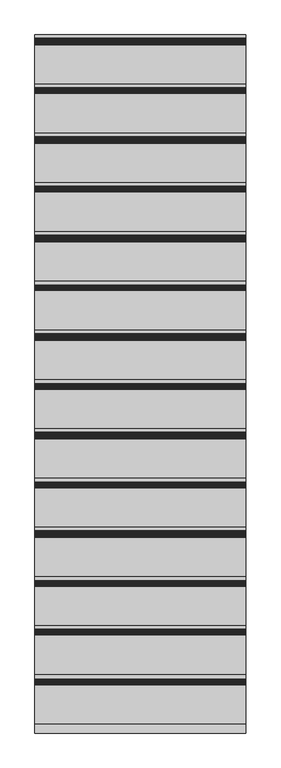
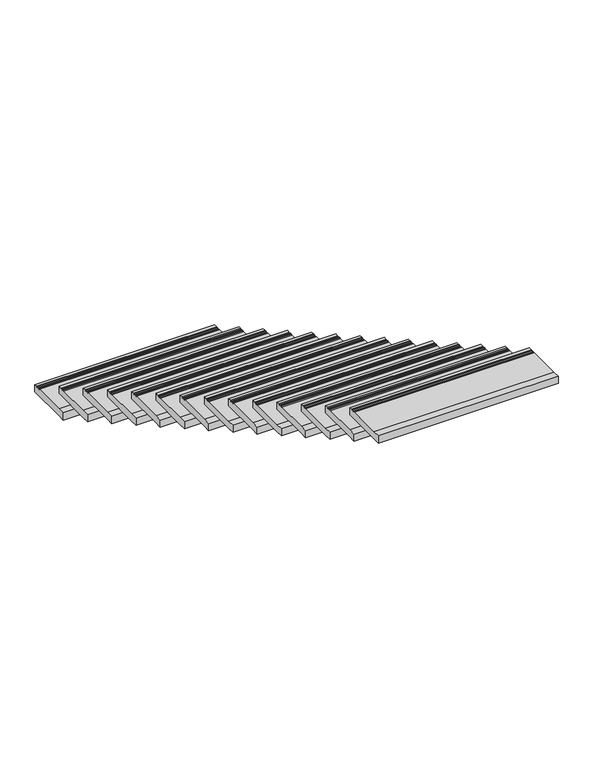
"""IFC4 building model written with IfcOpenShell, lengths in millimetres: stair flight geometry, Giron 30 mm nez de marche 20 mm."""

from ifc_helpers import new_model, si_unit, frame, origin, place, context, project, spatial, polyline, outline, extrude, source, transform, mapped, element, save


def stair_flight_51730395(model_context):
    return source(origin(), model_context, "Body", "SweptSolid", [
        extrude(outline(polyline([(5206.7132332, 3117.3333333), (5210.2487671, 3113.7977994), (5213.784301, 3117.3333333), (5217.319835, 3113.7977994), (5220.8553689, 3117.3333333), (5224.3909028, 3113.7977994), (5227.9264367, 3117.3333333), (5231.4619706, 3113.7977994), (5234.9975045, 3117.3333333), (5238.5330384, 3113.7977994), (5242.0685723, 3117.3333333), (5262.0685723, 3117.3333333), (5262.0685723, 3067.3333333), (4982.0685723, 3067.3333333), (4932.0685723, 3067.3333333), (4932.0685723, 3117.3333333), (4982.0685723, 3117.3333333), (5206.7132332, 3117.3333333)])), frame((9143.2466393, 0.0, 0.0), z_axis=(1.0, 0.0, 0.0), x_axis=(0.0, 1.0, 0.0)), (0.0, 0.0, 1.0), 1200.0),
        extrude(outline(polyline([(4926.7132332, 3274.6666667), (4930.2487671, 3271.1311328), (4933.784301, 3274.6666667), (4937.319835, 3271.1311328), (4940.8553689, 3274.6666667), (4944.3909028, 3271.1311328), (4947.9264367, 3274.6666667), (4951.4619706, 3271.1311328), (4954.9975045, 3274.6666667), (4958.5330384, 3271.1311328), (4962.0685723, 3274.6666667), (4982.0685723, 3274.6666667), (4982.0685723, 3224.6666667), (4702.0685723, 3224.6666667), (4652.0685723, 3224.6666667), (4652.0685723, 3274.6666667), (4702.0685723, 3274.6666667), (4926.7132332, 3274.6666667)])), frame((9143.2466393, 0.0, 0.0), z_axis=(1.0, 0.0, 0.0), x_axis=(0.0, 1.0, 0.0)), (0.0, 0.0, 1.0), 1200.0),
        extrude(outline(polyline([(4646.7132332, 3432.0), (4650.2487671, 3428.4644661), (4653.784301, 3432.0), (4657.319835, 3428.4644661), (4660.8553689, 3432.0), (4664.3909028, 3428.4644661), (4667.9264367, 3432.0), (4671.4619706, 3428.4644661), (4674.9975045, 3432.0), (4678.5330384, 3428.4644661), (4682.0685723, 3432.0), (4702.0685723, 3432.0), (4702.0685723, 3382.0), (4422.0685723, 3382.0), (4372.0685723, 3382.0), (4372.0685723, 3432.0), (4422.0685723, 3432.0), (4646.7132332, 3432.0)])), frame((9143.2466393, 0.0, 0.0), z_axis=(1.0, 0.0, 0.0), x_axis=(0.0, 1.0, 0.0)), (0.0, 0.0, 1.0), 1200.0),
        extrude(outline(polyline([(4366.7132332, 3589.3333333), (4370.2487671, 3585.7977994), (4373.784301, 3589.3333333), (4377.319835, 3585.7977994), (4380.8553689, 3589.3333333), (4384.3909028, 3585.7977994), (4387.9264367, 3589.3333333), (4391.4619706, 3585.7977994), (4394.9975045, 3589.3333333), (4398.5330384, 3585.7977994), (4402.0685723, 3589.3333333), (4422.0685723, 3589.3333333), (4422.0685723, 3539.3333333), (4142.0685723, 3539.3333333), (4092.0685723, 3539.3333333), (4092.0685723, 3589.3333333), (4142.0685723, 3589.3333333), (4366.7132332, 3589.3333333)])), frame((9143.2466393, 0.0, 0.0), z_axis=(1.0, 0.0, 0.0), x_axis=(0.0, 1.0, 0.0)), (0.0, 0.0, 1.0), 1200.0),
        extrude(outline(polyline([(4086.7132332, 3746.6666667), (4090.2487671, 3743.1311328), (4093.784301, 3746.6666667), (4097.319835, 3743.1311328), (4100.8553689, 3746.6666667), (4104.3909028, 3743.1311328), (4107.9264367, 3746.6666667), (4111.4619706, 3743.1311328), (4114.9975045, 3746.6666667), (4118.5330384, 3743.1311328), (4122.0685723, 3746.6666667), (4142.0685723, 3746.6666667), (4142.0685723, 3696.6666667), (3862.0685723, 3696.6666667), (3812.0685723, 3696.6666667), (3812.0685723, 3746.6666667), (3862.0685723, 3746.6666667), (4086.7132332, 3746.6666667)])), frame((9143.2466393, 0.0, 0.0), z_axis=(1.0, 0.0, 0.0), x_axis=(0.0, 1.0, 0.0)), (0.0, 0.0, 1.0), 1200.0),
        extrude(outline(polyline([(3806.7132332, 3904.0), (3810.2487671, 3900.4644661), (3813.784301, 3904.0), (3817.319835, 3900.4644661), (3820.8553689, 3904.0), (3824.3909028, 3900.4644661), (3827.9264367, 3904.0), (3831.4619706, 3900.4644661), (3834.9975045, 3904.0), (3838.5330384, 3900.4644661), (3842.0685723, 3904.0), (3862.0685723, 3904.0), (3862.0685723, 3854.0), (3582.0685723, 3854.0), (3532.0685723, 3854.0), (3532.0685723, 3904.0), (3582.0685723, 3904.0), (3806.7132332, 3904.0)])), frame((9143.2466393, 0.0, 0.0), z_axis=(1.0, 0.0, 0.0), x_axis=(0.0, 1.0, 0.0)), (0.0, 0.0, 1.0), 1200.0),
        extrude(outline(polyline([(3526.7132332, 4061.3333333), (3530.2487671, 4057.7977994), (3533.784301, 4061.3333333), (3537.319835, 4057.7977994), (3540.8553689, 4061.3333333), (3544.3909028, 4057.7977994), (3547.9264367, 4061.3333333), (3551.4619706, 4057.7977994), (3554.9975045, 4061.3333333), (3558.5330384, 4057.7977994), (3562.0685723, 4061.3333333), (3582.0685723, 4061.3333333), (3582.0685723, 4011.3333333), (3302.0685723, 4011.3333333), (3252.0685723, 4011.3333333), (3252.0685723, 4061.3333333), (3302.0685723, 4061.3333333), (3526.7132332, 4061.3333333)])), frame((9143.2466393, 0.0, 0.0), z_axis=(1.0, 0.0, 0.0), x_axis=(0.0, 1.0, 0.0)), (0.0, 0.0, 1.0), 1200.0),
        extrude(outline(polyline([(3246.7132332, 4218.6666667), (3250.2487671, 4215.1311328), (3253.784301, 4218.6666667), (3257.319835, 4215.1311328), (3260.8553689, 4218.6666667), (3264.3909028, 4215.1311328), (3267.9264367, 4218.6666667), (3271.4619706, 4215.1311328), (3274.9975045, 4218.6666667), (3278.5330384, 4215.1311328), (3282.0685723, 4218.6666667), (3302.0685723, 4218.6666667), (3302.0685723, 4168.6666667), (3022.0685723, 4168.6666667), (2972.0685723, 4168.6666667), (2972.0685723, 4218.6666667), (3022.0685723, 4218.6666667), (3246.7132332, 4218.6666667)])), frame((9143.2466393, 0.0, 0.0), z_axis=(1.0, 0.0, 0.0), x_axis=(0.0, 1.0, 0.0)), (0.0, 0.0, 1.0), 1200.0),
        extrude(outline(polyline([(2966.7132332, 4376.0), (2970.2487671, 4372.4644661), (2973.784301, 4376.0), (2977.319835, 4372.4644661), (2980.8553689, 4376.0), (2984.3909028, 4372.4644661), (2987.9264367, 4376.0), (2991.4619706, 4372.4644661), (2994.9975045, 4376.0), (2998.5330384, 4372.4644661), (3002.0685723, 4376.0), (3022.0685723, 4376.0), (3022.0685723, 4326.0), (2742.0685723, 4326.0), (2692.0685723, 4326.0), (2692.0685723, 4376.0), (2742.0685723, 4376.0), (2966.7132332, 4376.0)])), frame((9143.2466393, 0.0, 0.0), z_axis=(1.0, 0.0, 0.0), x_axis=(0.0, 1.0, 0.0)), (0.0, 0.0, 1.0), 1200.0),
        extrude(outline(polyline([(2686.7132332, 4533.3333333), (2690.2487671, 4529.7977994), (2693.784301, 4533.3333333), (2697.319835, 4529.7977994), (2700.8553689, 4533.3333333), (2704.3909028, 4529.7977994), (2707.9264367, 4533.3333333), (2711.4619706, 4529.7977994), (2714.9975045, 4533.3333333), (2718.5330384, 4529.7977994), (2722.0685723, 4533.3333333), (2742.0685723, 4533.3333333), (2742.0685723, 4483.3333333), (2462.0685723, 4483.3333333), (2412.0685723, 4483.3333333), (2412.0685723, 4533.3333333), (2462.0685723, 4533.3333333), (2686.7132332, 4533.3333333)])), frame((9143.2466393, 0.0, 0.0), z_axis=(1.0, 0.0, 0.0), x_axis=(0.0, 1.0, 0.0)), (0.0, 0.0, 1.0), 1200.0),
        extrude(outline(polyline([(2406.7132332, 4690.6666667), (2410.2487671, 4687.1311328), (2413.784301, 4690.6666667), (2417.319835, 4687.1311328), (2420.8553689, 4690.6666667), (2424.3909028, 4687.1311328), (2427.9264367, 4690.6666667), (2431.4619706, 4687.1311328), (2434.9975045, 4690.6666667), (2438.5330384, 4687.1311328), (2442.0685723, 4690.6666667), (2462.0685723, 4690.6666667), (2462.0685723, 4640.6666667), (2182.0685723, 4640.6666667), (2132.0685723, 4640.6666667), (2132.0685723, 4690.6666667), (2182.0685723, 4690.6666667), (2406.7132332, 4690.6666667)])), frame((9143.2466393, 0.0, 0.0), z_axis=(1.0, 0.0, 0.0), x_axis=(0.0, 1.0, 0.0)), (0.0, 0.0, 1.0), 1200.0),
        extrude(outline(polyline([(2126.7132332, 4848.0), (2130.2487671, 4844.4644661), (2133.784301, 4848.0), (2137.319835, 4844.4644661), (2140.8553689, 4848.0), (2144.3909028, 4844.4644661), (2147.9264367, 4848.0), (2151.4619706, 4844.4644661), (2154.9975045, 4848.0), (2158.5330384, 4844.4644661), (2162.0685723, 4848.0), (2182.0685723, 4848.0), (2182.0685723, 4798.0), (1902.0685723, 4798.0), (1852.0685723, 4798.0), (1852.0685723, 4848.0), (1902.0685723, 4848.0), (2126.7132332, 4848.0)])), frame((9143.2466393, 0.0, 0.0), z_axis=(1.0, 0.0, 0.0), x_axis=(0.0, 1.0, 0.0)), (0.0, 0.0, 1.0), 1200.0),
        extrude(outline(polyline([(1846.7132332, 5005.3333333), (1850.2487671, 5001.7977994), (1853.784301, 5005.3333333), (1857.319835, 5001.7977994), (1860.8553689, 5005.3333333), (1864.3909028, 5001.7977994), (1867.9264367, 5005.3333333), (1871.4619706, 5001.7977994), (1874.9975045, 5005.3333333), (1878.5330384, 5001.7977994), (1882.0685723, 5005.3333333), (1902.0685723, 5005.3333333), (1902.0685723, 4955.3333333), (1622.0685723, 4955.3333333), (1572.0685723, 4955.3333333), (1572.0685723, 5005.3333333), (1622.0685723, 5005.3333333), (1846.7132332, 5005.3333333)])), frame((9143.2466393, 0.0, 0.0), z_axis=(1.0, 0.0, 0.0), x_axis=(0.0, 1.0, 0.0)), (0.0, 0.0, 1.0), 1200.0),
        extrude(outline(polyline([(1566.7132332, 5162.6666667), (1570.2487671, 5159.1311328), (1573.784301, 5162.6666667), (1577.319835, 5159.1311328), (1580.8553689, 5162.6666667), (1584.3909028, 5159.1311328), (1587.9264367, 5162.6666667), (1591.4619706, 5159.1311328), (1594.9975045, 5162.6666667), (1598.5330384, 5159.1311328), (1602.0685723, 5162.6666667), (1622.0685723, 5162.6666667), (1622.0685723, 5112.6666667), (1342.0685723, 5112.6666667), (1292.0685723, 5112.6666667), (1292.0685723, 5162.6666667), (1342.0685723, 5162.6666667), (1566.7132332, 5162.6666667)])), frame((9143.2466393, 0.0, 0.0), z_axis=(1.0, 0.0, 0.0), x_axis=(0.0, 1.0, 0.0)), (0.0, 0.0, 1.0), 1200.0),
    ])


if __name__ == "__main__":
    model = new_model("IFC4")
    model_context = context("Model", 3, world=origin())
    ifc_project = project(units=[si_unit("LENGTHUNIT", "METRE", prefix="MILLI")], contexts=[model_context])
    site = spatial("IfcSite", under=ifc_project)
    building = spatial("IfcBuilding", under=site)
    placement = place(None, origin())
    stair_flight_shape = stair_flight_51730395(model_context)
    element("IfcStairFlight", 1, ObjectType="Giron 30 mm nez de marche 20 mm", at=placement, inside=building, context=model_context, shape_type="MappedRepresentation", body=[
        mapped(stair_flight_shape, transform((0.0, 0.0, 0.0), x_axis=(1.0, 0.0, 0.0), y_axis=(0.0, 1.0, 0.0), z_axis=(0.0, 0.0, 1.0))),
    ])
    save(model, "model.ifc")
